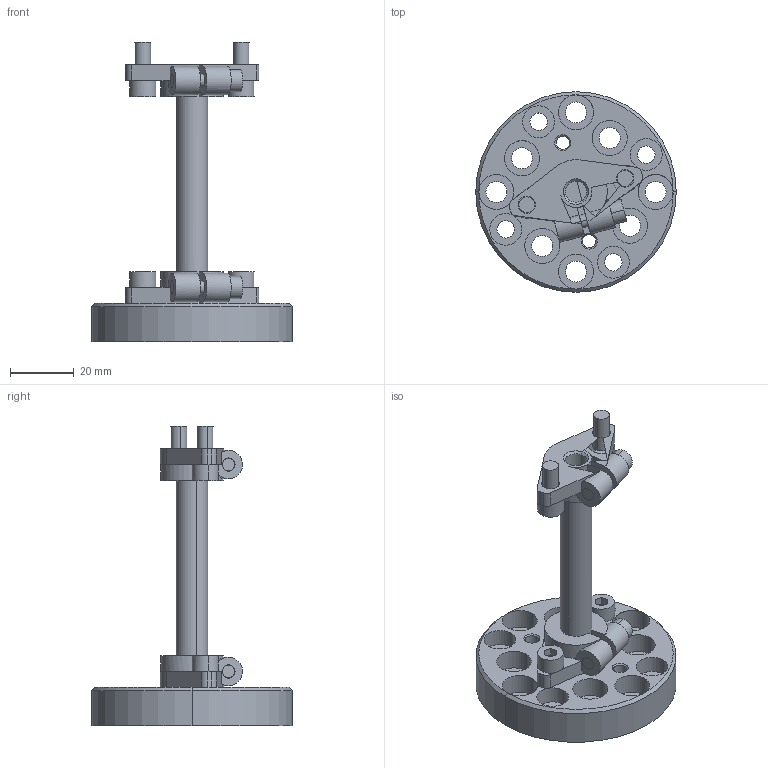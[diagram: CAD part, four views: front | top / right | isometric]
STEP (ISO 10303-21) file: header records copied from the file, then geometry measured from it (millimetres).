
FILE_DESCRIPTION (( 'STEP AP214' ), '1' );
FILE_NAME ('FCM_R03_02_02_.STEP', '2019-12-04T09:24:58', ( '微软用户' ), ( '微软中国' ), 'SwSTEP 2.0', 'SolidWorks 2016', '' );
FILE_SCHEMA (( 'AUTOMOTIVE_DESIGN' ));
Length unit declared in the file: millimetre
Products named in the file (1): FCM_R03_02_02_
Bounding box: 63 x 63 x 94 mm (x, y, z)
Volume: 42444.2 mm3; surface area: 22210.4 mm2
Topology: 2 solids, 2 shells, 290 faces, 713 edges, 457 vertices
Faces by surface type: cylinder 140, plane 124, cone 26
Entity records: 12055 total; most frequent: CARTESIAN_POINT 1615, DIRECTION 1612, ORIENTED_EDGE 1426, EDGE_CURVE 713, AXIS2_PLACEMENT_3D 624, VERTEX_POINT 457, VECTOR 364, LINE 364
